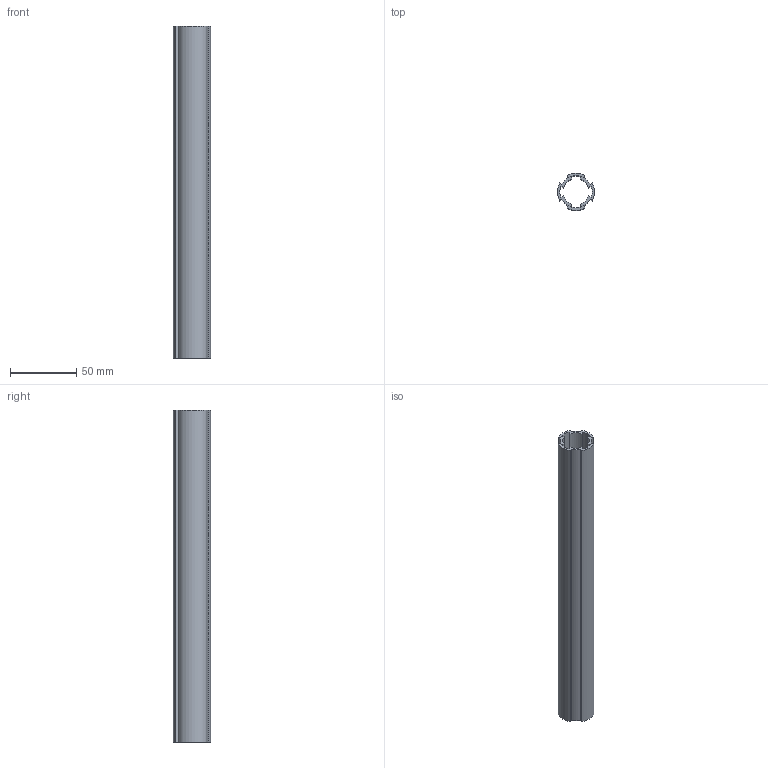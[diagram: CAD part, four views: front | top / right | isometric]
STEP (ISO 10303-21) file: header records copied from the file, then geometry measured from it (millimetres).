
FILE_DESCRIPTION (( 'STEP AP214' ), '1' );
FILE_NAME ('Rexroth-38421996191 250.step', '2010-11-17T02:02:27', ( 'SysAdmin' ), ( 'SolidWorks' ), 'SwSTEP 2.0', 'SolidWorks 2011', '' );
FILE_SCHEMA (( 'AUTOMOTIVE_DESIGN' ));
Length unit declared in the file: millimetre
Products named in the file (1): Rexroth-38421996191  250
Bounding box: 28 x 28 x 250 mm (x, y, z)
Volume: 44754.3 mm3; surface area: 47658.3 mm2
Topology: 1 solids, 1 shells, 36 faces, 102 edges, 68 vertices
Faces by surface type: cylinder 18, plane 18
Entity records: 1616 total; most frequent: DIRECTION 212, CARTESIAN_POINT 207, ORIENTED_EDGE 204, EDGE_CURVE 102, AXIS2_PLACEMENT_3D 73, VERTEX_POINT 68, VECTOR 66, LINE 66
